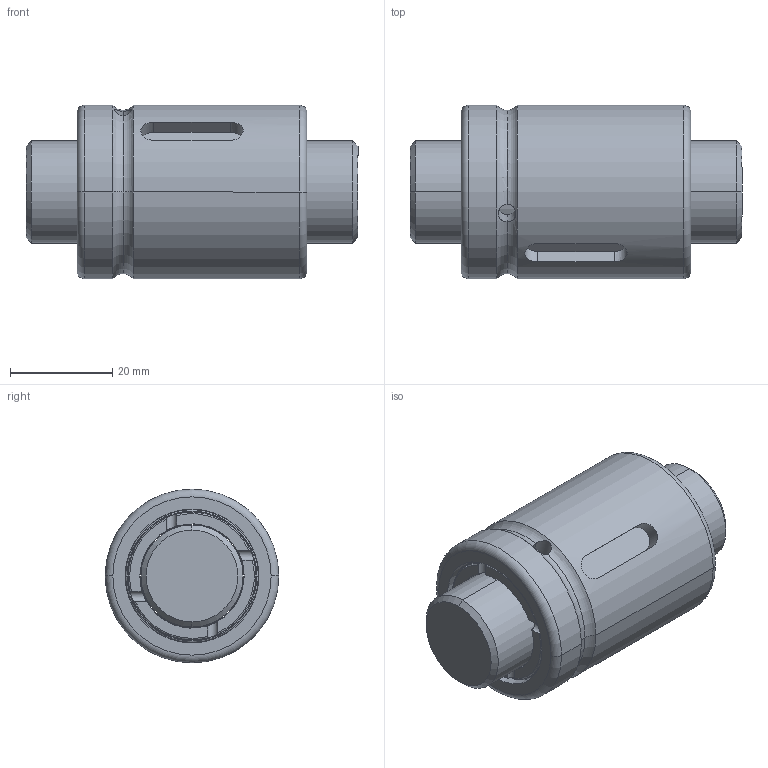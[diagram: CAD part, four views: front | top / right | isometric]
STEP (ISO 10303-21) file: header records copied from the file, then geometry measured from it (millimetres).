
FILE_DESCRIPTION (( 'STEP AP203' ), '1' );
FILE_NAME ('SCIR02005T4-C.STEP', '2020-06-17T07:34:23', ( '' ), ( '' ), 'SwSTEP 2.0', 'SolidWorks 2013', '' );
FILE_SCHEMA (( 'CONFIG_CONTROL_DESIGN' ));
Length unit declared in the file: millimetre
Products named in the file (1): SCIR02005T4-C
Bounding box: 65 x 34 x 34 mm (x, y, z)
Volume: 43960.4 mm3; surface area: 15847.3 mm2
Topology: 2 solids, 2 shells, 95 faces, 231 edges, 146 vertices
Faces by surface type: cylinder 42, torus 28, plane 21, cone 4
Entity records: 3651 total; most frequent: CARTESIAN_POINT 1331, DIRECTION 494, ORIENTED_EDGE 462, EDGE_CURVE 231, AXIS2_PLACEMENT_3D 221, VERTEX_POINT 146, CIRCLE 125, EDGE_LOOP 105
